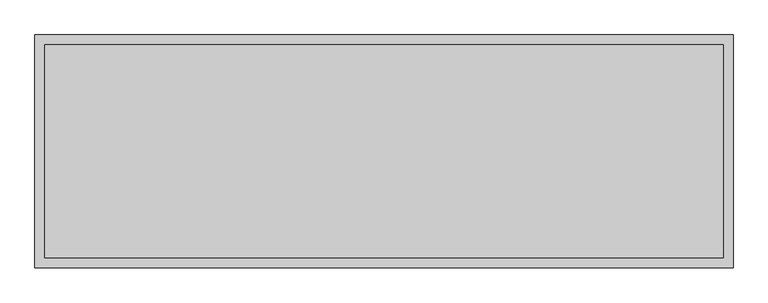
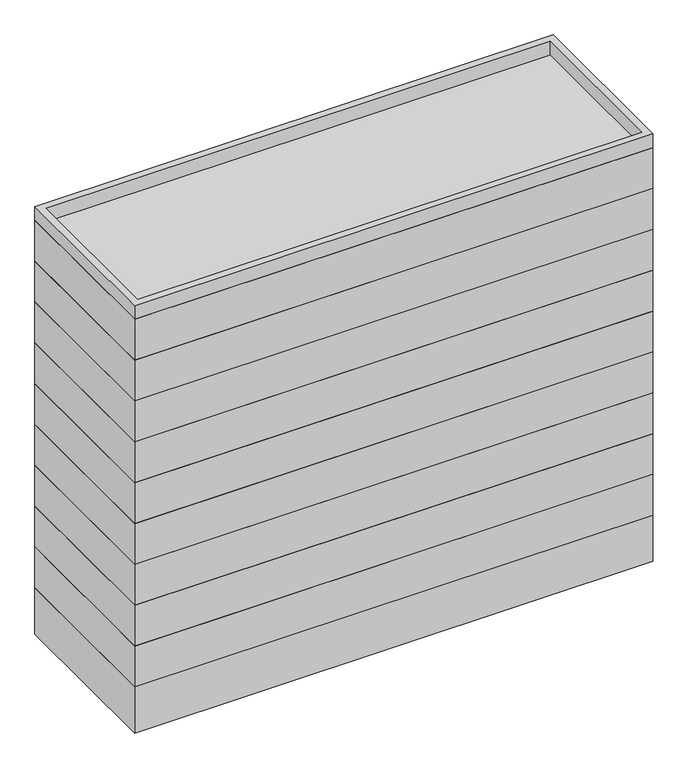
"""IFC4 building model written with IfcOpenShell, lengths in millimetres: geographic element geometry, Окружающая застройка : 9 кж."""

import ifcopenshell
import ifcopenshell.guid

model = None  # the IFC model being written
_history = None  # IfcOwnerHistory: only IFC2X3 demands one
_inside = {}  # id of a spatial element -> (the spatial element, [elements in it])
_under = {}  # id of a project, library or spatial element -> (it, [spatial elements below it])
_declared = {}  # id of a project -> (the project, [libraries it declares])
_typed = {}  # id of a type object -> (the type object, [elements of that type])
_made_of = {}  # id of a material, layer set ... -> (it, [elements and type objects made of it])


def new_model(schema):
    """Start an empty IFC model of exactly this schema.

    Asked for "IFC4X3", IfcOpenShell would pick the latest addendum, in which some entities
    have other attributes; the version numbers below select the first issue.
    IFC2X3 requires an IfcOwnerHistory on every rooted entity: one is made here for all.
    """
    global model, _history
    if schema == "IFC4X3":
        model = ifcopenshell.file(schema_version=(4, 3, 0, 0))
    else:
        model = ifcopenshell.file(schema=schema)
    _inside.clear()
    _under.clear()
    _declared.clear()
    _typed.clear()
    _made_of.clear()
    _history = None
    if model.schema == "IFC2X3":
        org = make("IfcOrganization", Name="unknown")
        user = make(
            "IfcPersonAndOrganization",
            ThePerson=make("IfcPerson", FamilyName="unknown"),
            TheOrganization=org,
        )
        app = make(
            "IfcApplication",
            ApplicationDeveloper=org,
            Version="unknown",
            ApplicationFullName="unknown",
            ApplicationIdentifier="unknown",
        )
        _history = make(
            "IfcOwnerHistory",
            OwningUser=user,
            OwningApplication=app,
            ChangeAction="ADDED",
            CreationDate=0,
        )
    return model


def make(cls, **values):
    """One entity of the class cls with the attributes given. An attribute that is None is left unset."""
    return model.create_entity(
        cls, **{name: value for name, value in values.items() if value is not None}
    )


def rooted(cls, **values):
    """An entity with a GlobalId (a new one), such as an element, a storey or a relation."""
    return make(cls, GlobalId=ifcopenshell.guid.new(), OwnerHistory=_history, **values)


def si_unit(unit_type, name, prefix=None):
    """IfcSIUnit, for example si_unit("LENGTHUNIT", "METRE", prefix="MILLI")."""
    return make("IfcSIUnit", UnitType=unit_type, Prefix=prefix, Name=name)


def assignment(units):
    """IfcUnitAssignment: the units of a project."""
    return None if units is None else make("IfcUnitAssignment", Units=units)


def point(xyz):
    """IfcCartesianPoint."""
    return None if xyz is None else make("IfcCartesianPoint", Coordinates=xyz)


def direction(xyz):
    """IfcDirection."""
    return None if xyz is None else make("IfcDirection", DirectionRatios=xyz)


def frame(location, z_axis=None, x_axis=None):
    """IfcAxis2Placement3D, a coordinate frame: its origin and axes. An axis left out is left unset."""
    return make(
        "IfcAxis2Placement3D",
        Location=point(location),
        Axis=direction(z_axis),
        RefDirection=direction(x_axis),
    )


def origin():
    """The frame at (0, 0, 0) with its axes left unset."""
    return frame((0.0, 0.0, 0.0))


def origin_with_axes():
    """The frame at (0, 0, 0) with the z axis (0, 0, 1) and the x axis (1, 0, 0) written out."""
    return frame((0.0, 0.0, 0.0), z_axis=(0.0, 0.0, 1.0), x_axis=(1.0, 0.0, 0.0))


def place(relative_to, where):
    """IfcLocalPlacement: puts the frame where relative to a parent placement (None: the world)."""
    return make(
        "IfcLocalPlacement", PlacementRelTo=relative_to, RelativePlacement=where
    )


def context(
    kind, dimensions, precision=None, world=None, true_north=None, identifier=None
):
    """IfcGeometricRepresentationContext, for example the 3D "Model" context."""
    return make(
        "IfcGeometricRepresentationContext",
        ContextIdentifier=identifier,
        ContextType=kind,
        CoordinateSpaceDimension=dimensions,
        Precision=precision,
        WorldCoordinateSystem=world,
        TrueNorth=true_north,
    )


def project(units=None, contexts=None):
    """IfcProject with its units and contexts."""
    return rooted(
        "IfcProject",
        Name="project",
        RepresentationContexts=contexts,
        UnitsInContext=assignment(units),
    )


def spatial(cls, under=None, at=None, **own):
    """A site, building, storey or space (cls), placed at a placement, below another one or the project."""
    s = rooted(cls, ObjectPlacement=at, **own)
    if under is not None:
        _under.setdefault(under.id(), (under, []))[1].append(s)
    return s


def polyline(points):
    """IfcPolyline through the points."""
    return make("IfcPolyline", Points=[point(p) for p in points])


def outline(outer, holes=None, kind="AREA"):
    """IfcArbitraryClosedProfileDef: a profile drawn as a closed curve; with holes, ...WithVoids."""
    if holes is None:
        return make("IfcArbitraryClosedProfileDef", ProfileType=kind, OuterCurve=outer)
    return make(
        "IfcArbitraryProfileDefWithVoids",
        ProfileType=kind,
        OuterCurve=outer,
        InnerCurves=holes,
    )


def extrude(swept, where, along, depth):
    """IfcExtrudedAreaSolid: the profile swept, set in the frame where, extruded along a direction by depth."""
    return make(
        "IfcExtrudedAreaSolid",
        SweptArea=swept,
        Position=where,
        ExtrudedDirection=direction(along),
        Depth=depth,
    )


def shape(context_of_items, identifier, shape_type, items):
    """IfcShapeRepresentation: the items that make up one representation, for example the "Body"."""
    return make(
        "IfcShapeRepresentation",
        ContextOfItems=context_of_items,
        RepresentationIdentifier=identifier,
        RepresentationType=shape_type,
        Items=items,
    )


def source(mapping_origin, context_of_items, identifier, shape_type, items):
    """IfcRepresentationMap: a shape defined once, which mapped items show again and again."""
    return make(
        "IfcRepresentationMap",
        MappingOrigin=mapping_origin,
        MappedRepresentation=shape(context_of_items, identifier, shape_type, items),
    )


def transform(
    local_origin,
    x_axis=None,
    y_axis=None,
    z_axis=None,
    scale=None,
    scale2=None,
    scale3=None,
    uniform=True,
):
    """IfcCartesianTransformationOperator3D, or its non-uniform kind. x_axis, y_axis, z_axis: its Axis1, 2, 3."""
    if uniform:
        return make(
            "IfcCartesianTransformationOperator3D",
            Axis1=direction(x_axis),
            Axis2=direction(y_axis),
            LocalOrigin=point(local_origin),
            Scale=scale,
            Axis3=direction(z_axis),
        )
    return make(
        "IfcCartesianTransformationOperator3DnonUniform",
        Axis1=direction(x_axis),
        Axis2=direction(y_axis),
        LocalOrigin=point(local_origin),
        Scale=scale,
        Axis3=direction(z_axis),
        Scale2=scale2,
        Scale3=scale3,
    )


def mapped(mapping_source, mapping_target):
    """IfcMappedItem: shows the shape of a source again, moved by a transform."""
    return make(
        "IfcMappedItem", MappingSource=mapping_source, MappingTarget=mapping_target
    )


def made_of(thing, what):
    """Note that an element or type object is made of a material, layer set ...; save() writes the relation."""
    if what is not None:
        _made_of.setdefault(what.id(), (what, []))[1].append(thing)
    return thing


def element(
    cls,
    number,
    at=None,
    inside=None,
    cuts=None,
    type_object=None,
    material=None,
    context=None,
    identifier="Body",
    shape_type=None,
    held_by="IfcProductDefinitionShape",
    body=None,
    shapes=None,
    **own,
):
    """One element of the class cls, such as IfcWall. Its Tag is "e" and its number.

    at: its placement. inside: the storey or other place that contains it. cuts: it is an
    opening in that element (IfcRelVoidsElement). A single representation is given by context,
    identifier, shape_type and body (its items); several are given by shapes. held_by: the class
    of the entity that holds the representations. save() writes the other relations.
    """
    e = rooted(cls, Tag="e%d" % number, ObjectPlacement=at, **own)
    if body is not None:
        shapes = [shape(context, identifier, shape_type, body)]
    if shapes is not None:
        e.Representation = make(held_by, Representations=shapes)
    if inside is not None:
        _inside.setdefault(inside.id(), (inside, []))[1].append(e)
    if cuts is not None:
        rooted(
            "IfcRelVoidsElement", RelatingBuildingElement=cuts, RelatedOpeningElement=e
        )
    if type_object is not None:
        _typed.setdefault(type_object.id(), (type_object, []))[1].append(e)
    return made_of(e, material)


def aggregate(whole, parts):
    """IfcRelAggregates: a whole, such as a stair, and the parts it consists of."""
    return rooted("IfcRelAggregates", RelatingObject=whole, RelatedObjects=parts)


def save(model, path):
    """Write the relations noted so far, then the file.

    IfcRelAggregates (storeys below a building ...), IfcRelContainedInSpatialStructure (elements
    in a storey), IfcRelDefinesByType, IfcRelAssociatesMaterial and IfcRelDeclares: one each for
    every whole, place, type object, material and project.
    """
    for whole, parts in _under.values():
        aggregate(whole, parts)
    for where, things in _inside.values():
        rooted(
            "IfcRelContainedInSpatialStructure",
            RelatedElements=things,
            RelatingStructure=where,
        )
    for kind, things in _typed.values():
        rooted("IfcRelDefinesByType", RelatedObjects=things, RelatingType=kind)
    for what, things in _made_of.values():
        rooted("IfcRelAssociatesMaterial", RelatedObjects=things, RelatingMaterial=what)
    for by, libraries in _declared.values():
        rooted("IfcRelDeclares", RelatingContext=by, RelatedDefinitions=libraries)
    model.write(path)


def geographic_element_9aaef536(model_context):
    return source(origin(), model_context, "Body", "SweptSolid", [
        extrude(outline(polyline([(36000.0, 0.0), (0.0, 0.0), (0.0, 12000.0), (36000.0, 12000.0), (36000.0, 0.0)])), frame((0.0, 0.0, 24000.0), z_axis=(0.0, 0.0, 1.0), x_axis=(1.0, 0.0, 0.0)), (0.0, 0.0, 1.0), 3000.0),
        extrude(outline(polyline([(36000.0, 0.0), (0.0, 0.0), (0.0, 12000.0), (36000.0, 12000.0), (36000.0, 0.0)])), frame((0.0, 0.0, 21000.0), z_axis=(0.0, 0.0, 1.0), x_axis=(1.0, 0.0, 0.0)), (0.0, 0.0, 1.0), 3000.0),
        extrude(outline(polyline([(36000.0, 0.0), (0.0, 0.0), (0.0, 12000.0), (36000.0, 12000.0), (36000.0, 0.0)])), frame((0.0, 0.0, 18000.0), z_axis=(0.0, 0.0, 1.0), x_axis=(1.0, 0.0, 0.0)), (0.0, 0.0, 1.0), 3000.0),
        extrude(outline(polyline([(36000.0, 0.0), (0.0, 0.0), (0.0, 12000.0), (36000.0, 12000.0), (36000.0, 0.0)])), frame((0.0, 0.0, 15000.0), z_axis=(0.0, 0.0, 1.0), x_axis=(1.0, 0.0, 0.0)), (0.0, 0.0, 1.0), 3000.0),
        extrude(outline(polyline([(36000.0, 0.0), (0.0, 0.0), (0.0, 12000.0), (36000.0, 12000.0), (36000.0, 0.0)])), frame((0.0, 0.0, 12000.0), z_axis=(0.0, 0.0, 1.0), x_axis=(1.0, 0.0, 0.0)), (0.0, 0.0, 1.0), 3000.0),
        extrude(outline(polyline([(36000.0, 0.0), (0.0, 0.0), (0.0, 12000.0), (36000.0, 12000.0), (36000.0, 0.0)])), frame((0.0, 0.0, 9000.0), z_axis=(0.0, 0.0, 1.0), x_axis=(1.0, 0.0, 0.0)), (0.0, 0.0, 1.0), 3000.0),
        extrude(outline(polyline([(36000.0, 0.0), (0.0, 0.0), (0.0, 12000.0), (36000.0, 12000.0), (36000.0, 0.0)])), origin_with_axes(), (0.0, 0.0, 1.0), 3000.0),
        extrude(outline(polyline([(36000.0, 12000.0), (36000.0, 0.0), (0.0, 0.0), (0.0, 12000.0), (36000.0, 12000.0)])), frame((0.0, 0.0, -3390.8), z_axis=(0.0, 0.0, 1.0), x_axis=(1.0, 0.0, 0.0)), (0.0, 0.0, 1.0), 3390.8),
        extrude(outline(polyline([(0.0, 12000.0), (36000.0, 12000.0), (36000.0, 0.0), (0.0, 0.0), (0.0, 12000.0)]), holes=[polyline([(500.0, 11500.0), (500.0, 500.0), (35500.0, 500.0), (35500.0, 11500.0), (500.0, 11500.0)])]), frame((0.0, 0.0, 27000.0), z_axis=(0.0, 0.0, 1.0), x_axis=(1.0, 0.0, 0.0)), (0.0, 0.0, 1.0), 1000.0),
        extrude(outline(polyline([(36000.0, 0.0), (0.0, 0.0), (0.0, 12000.0), (36000.0, 12000.0), (36000.0, 0.0)])), frame((0.0, 0.0, 3000.0), z_axis=(0.0, 0.0, 1.0), x_axis=(1.0, 0.0, 0.0)), (0.0, 0.0, 1.0), 3000.0),
        extrude(outline(polyline([(36000.0, 0.0), (0.0, 0.0), (0.0, 12000.0), (36000.0, 12000.0), (36000.0, 0.0)])), frame((0.0, 0.0, 6000.0), z_axis=(0.0, 0.0, 1.0), x_axis=(1.0, 0.0, 0.0)), (0.0, 0.0, 1.0), 3000.0),
    ])


if __name__ == "__main__":
    model = new_model("IFC4")
    model_context = context("Model", 3, world=origin())
    ifc_project = project(units=[si_unit("LENGTHUNIT", "METRE", prefix="MILLI")], contexts=[model_context])
    site = spatial("IfcSite", under=ifc_project)
    building = spatial("IfcBuilding", under=site)
    placement = place(None, origin())
    geographic_element_shape = geographic_element_9aaef536(model_context)
    element("IfcGeographicElement", 1, ObjectType="Окружающая застройка : 9 кж", at=placement, inside=building, context=model_context, shape_type="MappedRepresentation", body=[
        mapped(geographic_element_shape, transform((0.0, 0.0, 0.0), x_axis=(1.0, 0.0, 0.0), y_axis=(0.0, 1.0, 0.0), z_axis=(0.0, 0.0, 1.0))),
    ])
    save(model, "model.ifc")
